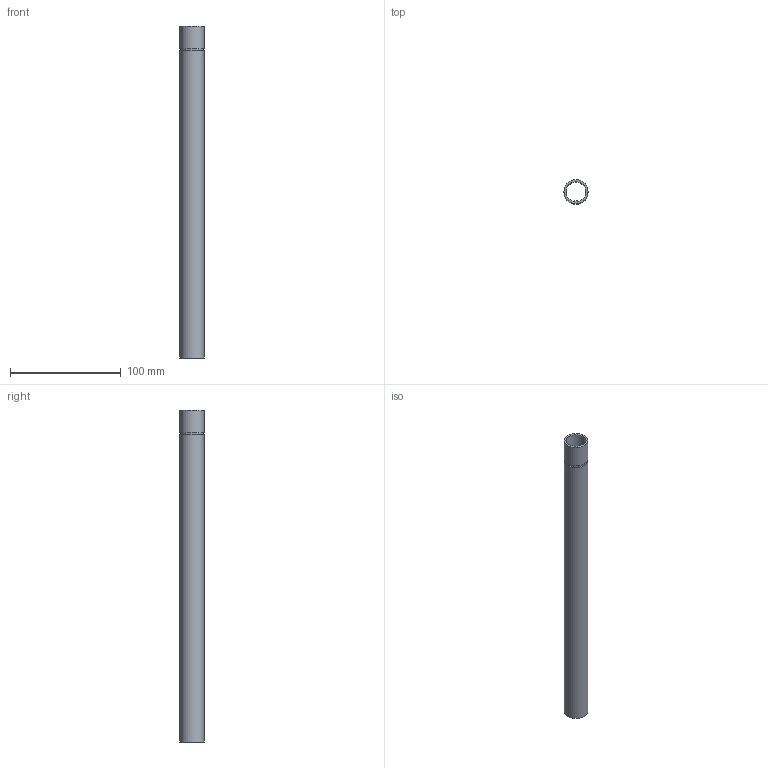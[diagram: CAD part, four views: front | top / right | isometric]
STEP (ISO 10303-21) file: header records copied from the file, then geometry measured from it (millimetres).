
FILE_DESCRIPTION( ( 'STEP AP203' ), ' ' );
FILE_NAME( 'p:/temp/worker_8/2684_1504/app_55_02018041611541846325385192d056f_000000_00_00_000000/format_6/E89066.stp', '2018-04-16T09:54:19', ( '' ), ( '' ), ' ', 'PARTsolutions', ' ' );
FILE_SCHEMA( ( 'CONFIG_CONTROL_DESIGN' ) );
Length unit declared in the file: millimetre
Products named in the file (1): _E89066
Bounding box: 21.7 x 21.7 x 300 mm (x, y, z)
Volume: 34267.1 mm3; surface area: 38436 mm2
Topology: 1 solids, 1 shells, 11 faces, 21 edges, 14 vertices
Faces by surface type: plane 7, cylinder 4
Full cylindrical faces by diameter (mm): 20 x1, 21.7 x2
Entity records: 316 total; most frequent: DIRECTION 50, CARTESIAN_POINT 44, ORIENTED_EDGE 36, AXIS2_PLACEMENT_3D 20, EDGE_LOOP 18, EDGE_CURVE 18, FACE_OUTER_BOUND 14, VERTEX_POINT 14
